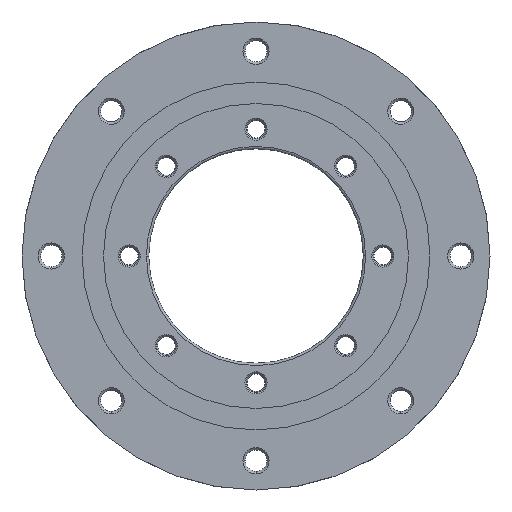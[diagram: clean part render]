
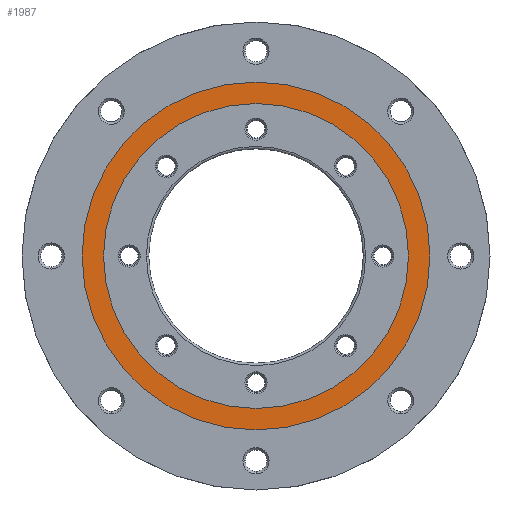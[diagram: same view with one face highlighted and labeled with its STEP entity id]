
A CAD part, front view. The second image highlights one B-rep face of the part: STEP entity #1987.
In plain terms, the highlighted planar face has unit normal (0, -1, 0).
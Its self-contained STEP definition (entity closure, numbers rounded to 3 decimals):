
#1659=EDGE_CURVE('',#3047,#3841,#4645,.T.);
#1987=ADVANCED_FACE('',(#4996,#4997),#4998,.F.);
#2211=VERTEX_POINT('',#5269);
#3047=VERTEX_POINT('',#6226);
#3707=EDGE_CURVE('',#3841,#3047,#6960,.T.);
#3841=VERTEX_POINT('',#7111);
#4085=EDGE_CURVE('',#2211,#4121,#7381,.T.);
#4121=VERTEX_POINT('',#7422);
#4499=EDGE_CURVE('',#4121,#2211,#7844,.T.);
#4645=CIRCLE('',#8030,44.6);
#4996=FACE_OUTER_BOUND('',#8497,.T.);
#4997=FACE_BOUND('',#8498,.T.);
#4998=PLANE('',#8499);
#5269=CARTESIAN_POINT('',(39.1,0.0,0.0));
#6226=CARTESIAN_POINT('',(-44.6,0.0,0.));
#6960=CIRCLE('',#11006,44.6);
#7111=CARTESIAN_POINT('',(44.6,0.0,0.0));
#7381=CIRCLE('',#11551,39.1);
#7422=CARTESIAN_POINT('',(-39.1,0.0,0.0));
#7844=CIRCLE('',#12133,39.1);
#8030=AXIS2_PLACEMENT_3D('',#12238,#12239,#12240);
#8497=EDGE_LOOP('',(#12625,#12626));
#8498=EDGE_LOOP('',(#12627,#12628));
#8499=AXIS2_PLACEMENT_3D('',#12629,#12630,#12631);
#11006=AXIS2_PLACEMENT_3D('',#15223,#15224,#15225);
#11551=AXIS2_PLACEMENT_3D('',#15782,#15783,#15784);
#12133=AXIS2_PLACEMENT_3D('',#16419,#16420,#16421);
#12238=CARTESIAN_POINT('',(0.0,0.0,0.0));
#12239=DIRECTION('',(0.0,1.0,0.0));
#12240=DIRECTION('',(-1.0,0.0,0.0));
#12625=ORIENTED_EDGE('',*,*,#1659,.F.);
#12626=ORIENTED_EDGE('',*,*,#3707,.F.);
#12627=ORIENTED_EDGE('',*,*,#4499,.F.);
#12628=ORIENTED_EDGE('',*,*,#4085,.F.);
#12629=CARTESIAN_POINT('',(0.0,0.0,0.0));
#12630=DIRECTION('',(0.0,1.0,0.0));
#12631=DIRECTION('',(1.0,0.0,-0.0));
#15223=CARTESIAN_POINT('',(0.0,0.0,0.0));
#15224=DIRECTION('',(-0.0,1.0,0.0));
#15225=DIRECTION('',(1.0,0.0,0.0));
#15782=CARTESIAN_POINT('',(0.0,0.0,0.0));
#15783=DIRECTION('',(0.0,-1.0,0.0));
#15784=DIRECTION('',(1.0,0.0,0.0));
#16419=CARTESIAN_POINT('',(0.0,0.0,0.0));
#16420=DIRECTION('',(0.0,-1.0,0.0));
#16421=DIRECTION('',(-1.0,0.0,0.0));
